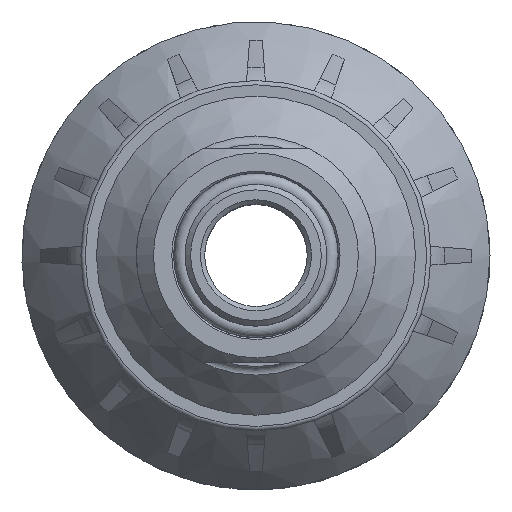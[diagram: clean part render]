
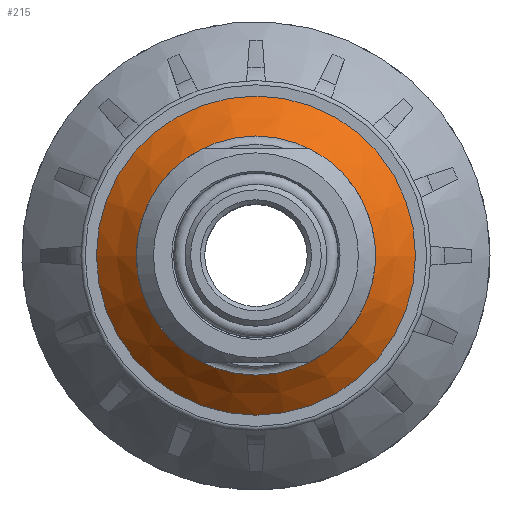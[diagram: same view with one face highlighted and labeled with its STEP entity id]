
A CAD part, top view. The second image highlights one B-rep face of the part: STEP entity #215.
In plain terms, the highlighted conical face has half-angle 45.485 degrees and reference radius 18.678 mm.
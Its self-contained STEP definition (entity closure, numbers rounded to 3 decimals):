
#215 = ADVANCED_FACE( '', ( #968, #969 ), #970, .T. );
#968 = FACE_BOUND( '', #2371, .T. );
#969 = FACE_OUTER_BOUND( '', #2372, .T. );
#970 = CONICAL_SURFACE( '', #2373, 18.679, 0.794 );
#2371 = EDGE_LOOP( '', ( #6189 ) );
#2372 = EDGE_LOOP( '', ( #6190 ) );
#2373 = AXIS2_PLACEMENT_3D( '', #6191, #6192, #6193 );
#6189 = ORIENTED_EDGE( '', *, *, #11019, .T. );
#6190 = ORIENTED_EDGE( '', *, *, #11018, .F. );
#6191 = CARTESIAN_POINT( '', ( 0., 0., 5.928 ) );
#6192 = DIRECTION( '', ( 0., 0., -1. ) );
#6193 = DIRECTION( '', ( -1., 0., 0. ) );
#11018 = EDGE_CURVE( '', #12862, #12862, #12863, .T. );
#11019 = EDGE_CURVE( '', #12864, #12864, #12865, .T. );
#12862 = VERTEX_POINT( '', #16492 );
#12863 = CIRCLE( '', #16493, 18.679 );
#12864 = VERTEX_POINT( '', #16494 );
#12865 = CIRCLE( '', #16495, 14. );
#16492 = CARTESIAN_POINT( '', ( -18.679, 0., 5.928 ) );
#16493 = AXIS2_PLACEMENT_3D( '', #27340, #27341, #27342 );
#16494 = CARTESIAN_POINT( '', ( -14., 0., 10.528 ) );
#16495 = AXIS2_PLACEMENT_3D( '', #27343, #27344, #27345 );
#27340 = CARTESIAN_POINT( '', ( 0., 0., 5.928 ) );
#27341 = DIRECTION( '', ( 0., 0., -1. ) );
#27342 = DIRECTION( '', ( -1., 0., 0. ) );
#27343 = CARTESIAN_POINT( '', ( 0., 0., 10.528 ) );
#27344 = DIRECTION( '', ( 0., 0., -1. ) );
#27345 = DIRECTION( '', ( -1., 0., 0. ) );
